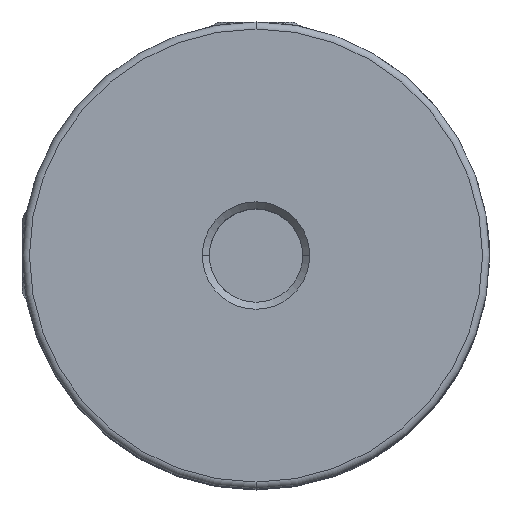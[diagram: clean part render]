
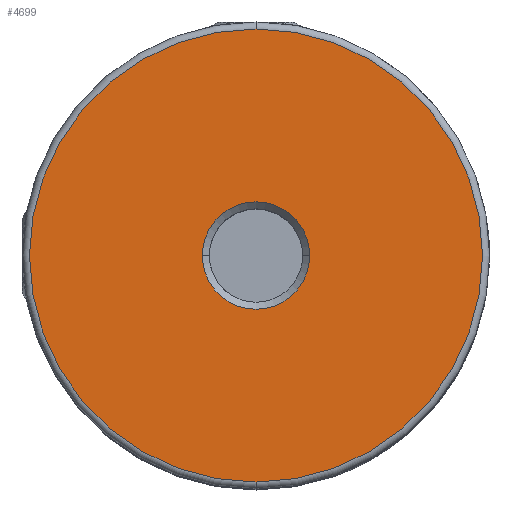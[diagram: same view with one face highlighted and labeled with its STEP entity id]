
A CAD part, top view. The second image highlights one B-rep face of the part: STEP entity #4699.
In plain terms, the highlighted planar face has unit normal (0, 0, 1).
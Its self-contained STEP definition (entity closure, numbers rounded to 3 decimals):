
#97 = VERTEX_POINT ( 'NONE', #318 ) ;
#98 = VERTEX_POINT ( 'NONE', #319 ) ;
#318 = CARTESIAN_POINT ( 'NONE',  ( 2.3, 0., 9.95 ) ) ;
#319 = CARTESIAN_POINT ( 'NONE',  ( -2.3, 0., 9.95 ) ) ;
#472 = CARTESIAN_POINT ( 'NONE',  ( 0., 0., 9.95 ) ) ;
#473 = DIRECTION ( 'NONE',  ( 0., 0., -1. ) ) ;
#474 = DIRECTION ( 'NONE',  ( -1., 0., 0. ) ) ;
#1705 = PLANE ( 'NONE',  #3342 ) ;
#1706 = CARTESIAN_POINT ( 'NONE',  ( 0., 0., 9.95 ) ) ;
#1707 = DIRECTION ( 'NONE',  ( 0., 0., -1. ) ) ;
#1708 = DIRECTION ( 'NONE',  ( 0., 1., 0. ) ) ;
#2067 = CARTESIAN_POINT ( 'NONE',  ( 0., 0., 9.95 ) ) ;
#2068 = DIRECTION ( 'NONE',  ( 0., 0., 1. ) ) ;
#2069 = DIRECTION ( 'NONE',  ( 0., 1., 0. ) ) ;
#2711 = CARTESIAN_POINT ( 'NONE',  ( 0., 0., 9.95 ) ) ;
#2712 = DIRECTION ( 'NONE',  ( 0., 0., -1. ) ) ;
#2713 = DIRECTION ( 'NONE',  ( -1., 0., 0. ) ) ;
#2795 = CARTESIAN_POINT ( 'NONE',  ( 0., 0., 9.95 ) ) ;
#2799 = DIRECTION ( 'NONE',  ( 0., 0., 1. ) ) ;
#2800 = DIRECTION ( 'NONE',  ( 0., 1., 0. ) ) ;
#3082 = CARTESIAN_POINT ( 'NONE',  ( 0., 9.7, 9.95 ) ) ;
#3083 = CARTESIAN_POINT ( 'NONE',  ( 0., -9.7, 9.95 ) ) ;
#3329 = FACE_BOUND ( 'NONE', #5424, .T. ) ;
#3340 = FACE_OUTER_BOUND ( 'NONE', #5512, .T. ) ;
#3342 = AXIS2_PLACEMENT_3D ( 'NONE', #1706, #1707, #1708 ) ;
#3756 = AXIS2_PLACEMENT_3D ( 'NONE', #2711, #2712, #2713 ) ;
#3781 = AXIS2_PLACEMENT_3D ( 'NONE', #2795, #2799, #2800 ) ;
#3854 = EDGE_CURVE ( 'NONE', #97, #98, #4410, .T. ) ;
#4131 = AXIS2_PLACEMENT_3D ( 'NONE', #2067, #2068, #2069 ) ;
#4185 = AXIS2_PLACEMENT_3D ( 'NONE', #472, #473, #474 ) ;
#4410 = CIRCLE ( 'NONE', #4185, 2.3 ) ;
#4504 = CIRCLE ( 'NONE', #3756, 2.3 ) ;
#4598 = CIRCLE ( 'NONE', #3781, 9.7 ) ;
#4599 = CIRCLE ( 'NONE', #4131, 9.7 ) ;
#4699 = ADVANCED_FACE ( 'NONE', ( #3329, #3340 ), #1705, .F. ) ;
#4902 = EDGE_CURVE ( 'NONE', #6309, #6308, #4599, .T. ) ;
#5083 = EDGE_CURVE ( 'NONE', #98, #97, #4504, .T. ) ;
#5108 = EDGE_CURVE ( 'NONE', #6308, #6309, #4598, .T. ) ;
#5424 = EDGE_LOOP ( 'NONE', ( #5917, #5916 ) ) ;
#5512 = EDGE_LOOP ( 'NONE', ( #5915, #5913 ) ) ;
#5913 = ORIENTED_EDGE ( 'NONE', *, *, #4902, .T. ) ;
#5915 = ORIENTED_EDGE ( 'NONE', *, *, #5108, .T. ) ;
#5916 = ORIENTED_EDGE ( 'NONE', *, *, #5083, .T. ) ;
#5917 = ORIENTED_EDGE ( 'NONE', *, *, #3854, .T. ) ;
#6308 = VERTEX_POINT ( 'NONE', #3082 ) ;
#6309 = VERTEX_POINT ( 'NONE', #3083 ) ;
